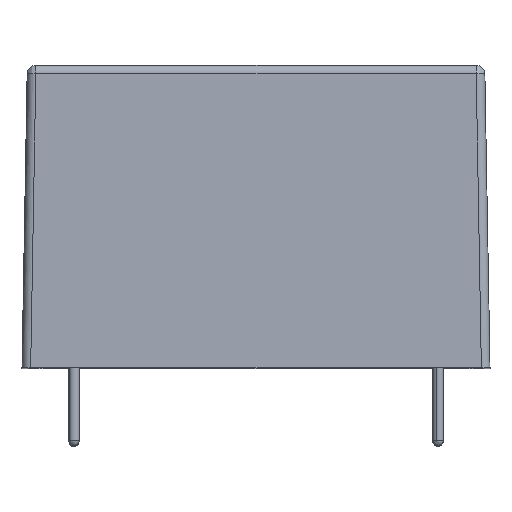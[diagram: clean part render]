
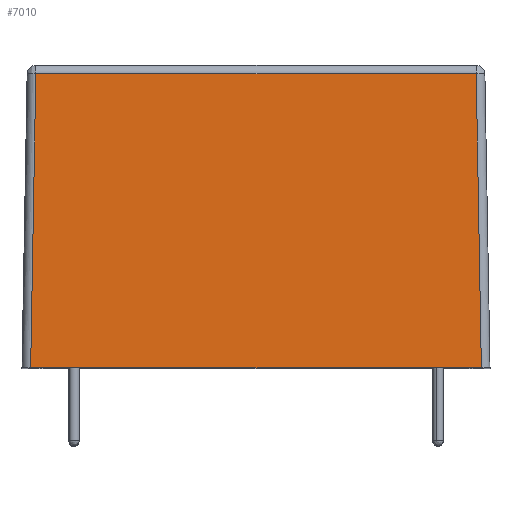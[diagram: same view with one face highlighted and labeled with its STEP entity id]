
A CAD part, top view. The second image highlights one B-rep face of the part: STEP entity #7010.
In plain terms, the highlighted planar face has unit normal (0, 0.018, 1).
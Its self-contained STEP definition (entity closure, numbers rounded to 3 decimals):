
#426 = VERTEX_POINT ( 'NONE', #7703 ) ;
#485 = LINE ( 'NONE', #2484, #4304 ) ;
#606 = VECTOR ( 'NONE', #3660, 1000. ) ;
#1004 = ORIENTED_EDGE ( 'NONE', *, *, #3509, .T. ) ;
#1063 = ORIENTED_EDGE ( 'NONE', *, *, #6058, .T. ) ;
#1702 = DIRECTION ( 'NONE',  ( -0.017, 1., -0.017 ) ) ;
#2207 = EDGE_LOOP ( 'NONE', ( #3709, #1004, #2697, #1063 ) ) ;
#2484 = CARTESIAN_POINT ( 'NONE',  ( -12.704, -0.491, 17.954 ) ) ;
#2616 = CARTESIAN_POINT ( 'NONE',  ( 13.5, -17.45, 18.25 ) ) ;
#2697 = ORIENTED_EDGE ( 'NONE', *, *, #3633, .T. ) ;
#2804 = VERTEX_POINT ( 'NONE', #6533 ) ;
#3248 = DIRECTION ( 'NONE',  ( -0.017, -1., 0.017 ) ) ;
#3509 = EDGE_CURVE ( 'NONE', #2804, #9692, #485, .T. ) ;
#3599 = LINE ( 'NONE', #2616, #7404 ) ;
#3633 = EDGE_CURVE ( 'NONE', #9692, #426, #3599, .T. ) ;
#3634 = CARTESIAN_POINT ( 'NONE',  ( -13., -17.45, 18.25 ) ) ;
#3660 = DIRECTION ( 'NONE',  ( 1., 0., 0. ) ) ;
#3709 = ORIENTED_EDGE ( 'NONE', *, *, #7480, .F. ) ;
#4012 = CARTESIAN_POINT ( 'NONE',  ( 13., -17.45, 18.25 ) ) ;
#4014 = CARTESIAN_POINT ( 'NONE',  ( 12.704, -0.491, 17.954 ) ) ;
#4206 = VECTOR ( 'NONE', #1702, 1000. ) ;
#4253 = DIRECTION ( 'NONE',  ( 0., 0.017, 1. ) ) ;
#4304 = VECTOR ( 'NONE', #3248, 1000. ) ;
#5049 = AXIS2_PLACEMENT_3D ( 'NONE', #8744, #4253, #9567 ) ;
#6058 = EDGE_CURVE ( 'NONE', #426, #7239, #8487, .T. ) ;
#6533 = CARTESIAN_POINT ( 'NONE',  ( -12.704, -0.491, 17.954 ) ) ;
#7010 = ADVANCED_FACE ( 'NONE', ( #7550 ), #8801, .T. ) ;
#7163 = DIRECTION ( 'NONE',  ( 1., 0., 0. ) ) ;
#7239 = VERTEX_POINT ( 'NONE', #4014 ) ;
#7404 = VECTOR ( 'NONE', #7163, 1000. ) ;
#7480 = EDGE_CURVE ( 'NONE', #2804, #7239, #8480, .T. ) ;
#7550 = FACE_OUTER_BOUND ( 'NONE', #2207, .T. ) ;
#7703 = CARTESIAN_POINT ( 'NONE',  ( 13., -17.45, 18.25 ) ) ;
#8480 = LINE ( 'NONE', #8971, #606 ) ;
#8487 = LINE ( 'NONE', #4012, #4206 ) ;
#8744 = CARTESIAN_POINT ( 'NONE',  ( 13.5, -17.45, 18.25 ) ) ;
#8801 = PLANE ( 'NONE',  #5049 ) ;
#8971 = CARTESIAN_POINT ( 'NONE',  ( -13.5, -0.491, 17.954 ) ) ;
#9567 = DIRECTION ( 'NONE',  ( 0., -1., 0.017 ) ) ;
#9692 = VERTEX_POINT ( 'NONE', #3634 ) ;
